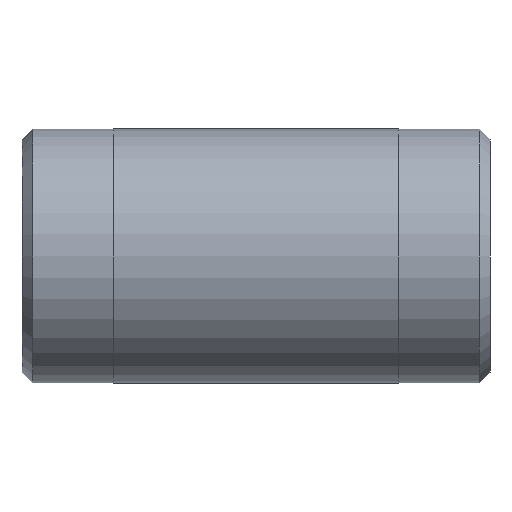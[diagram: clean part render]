
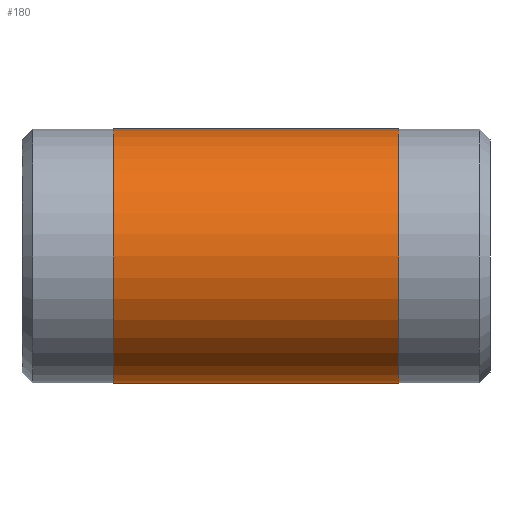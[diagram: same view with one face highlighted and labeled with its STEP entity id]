
A CAD part, left-side view. The second image highlights one B-rep face of the part: STEP entity #180.
In plain terms, the highlighted cylindrical face has radius 24.13 mm (diameter 48.26 mm), a full revolution.
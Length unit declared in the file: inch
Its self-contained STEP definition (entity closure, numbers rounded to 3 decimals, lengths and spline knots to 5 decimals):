
#25=CYLINDRICAL_SURFACE('',#220,0.95);
#34=FACE_OUTER_BOUND('',#47,.T.);
#47=EDGE_LOOP('',(#155,#156,#157,#158,#159,#160));
#55=LINE('',#338,#61);
#61=VECTOR('',#283,0.95);
#77=CIRCLE('',#218,0.95);
#78=CIRCLE('',#219,0.95);
#79=CIRCLE('',#221,0.95);
#80=CIRCLE('',#222,0.95);
#95=VERTEX_POINT('',#329);
#96=VERTEX_POINT('',#330);
#97=VERTEX_POINT('',#334);
#98=VERTEX_POINT('',#335);
#117=EDGE_CURVE('',#95,#96,#77,.T.);
#118=EDGE_CURVE('',#96,#95,#78,.T.);
#119=EDGE_CURVE('',#97,#98,#79,.T.);
#120=EDGE_CURVE('',#98,#97,#80,.T.);
#121=EDGE_CURVE('',#98,#96,#55,.T.);
#155=ORIENTED_EDGE('',*,*,#119,.F.);
#156=ORIENTED_EDGE('',*,*,#120,.F.);
#157=ORIENTED_EDGE('',*,*,#121,.T.);
#158=ORIENTED_EDGE('',*,*,#118,.T.);
#159=ORIENTED_EDGE('',*,*,#117,.T.);
#160=ORIENTED_EDGE('',*,*,#121,.F.);
#180=ADVANCED_FACE('',(#34),#25,.T.);
#218=AXIS2_PLACEMENT_3D('',#331,#273,#274);
#219=AXIS2_PLACEMENT_3D('',#332,#275,#276);
#220=AXIS2_PLACEMENT_3D('',#333,#277,#278);
#221=AXIS2_PLACEMENT_3D('',#336,#279,#280);
#222=AXIS2_PLACEMENT_3D('',#337,#281,#282);
#273=DIRECTION('center_axis',(0.,-1.,0.));
#274=DIRECTION('ref_axis',(1.,0.,0.));
#275=DIRECTION('center_axis',(0.,-1.,0.));
#276=DIRECTION('ref_axis',(1.,0.,0.));
#277=DIRECTION('center_axis',(0.,-1.,0.));
#278=DIRECTION('ref_axis',(0.,0.,-1.));
#279=DIRECTION('center_axis',(0.,-1.,0.));
#280=DIRECTION('ref_axis',(1.,0.,0.));
#281=DIRECTION('center_axis',(0.,-1.,0.));
#282=DIRECTION('ref_axis',(1.,0.,0.));
#283=DIRECTION('',(0.,1.,0.));
#329=CARTESIAN_POINT('',(0.,2.819,-0.95));
#330=CARTESIAN_POINT('',(0.,2.819,0.95));
#331=CARTESIAN_POINT('Origin',(0.,2.819,0.));
#332=CARTESIAN_POINT('Origin',(0.,2.819,0.));
#333=CARTESIAN_POINT('Origin',(0.,1.75,0.));
#334=CARTESIAN_POINT('',(0.,0.681,-0.95));
#335=CARTESIAN_POINT('',(0.,0.681,0.95));
#336=CARTESIAN_POINT('Origin',(0.,0.681,0.));
#337=CARTESIAN_POINT('Origin',(0.,0.681,0.));
#338=CARTESIAN_POINT('',(0.,1.75,0.95));
